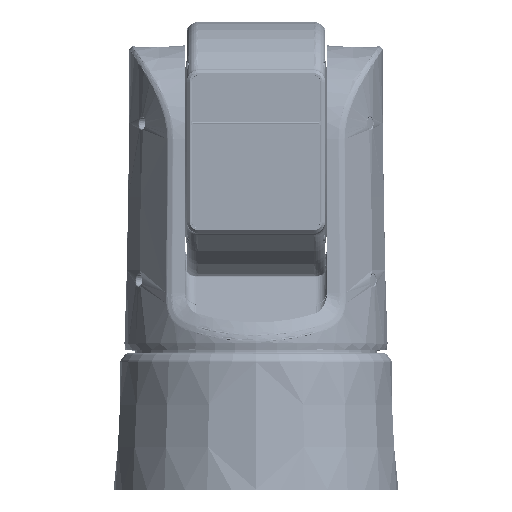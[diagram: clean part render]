
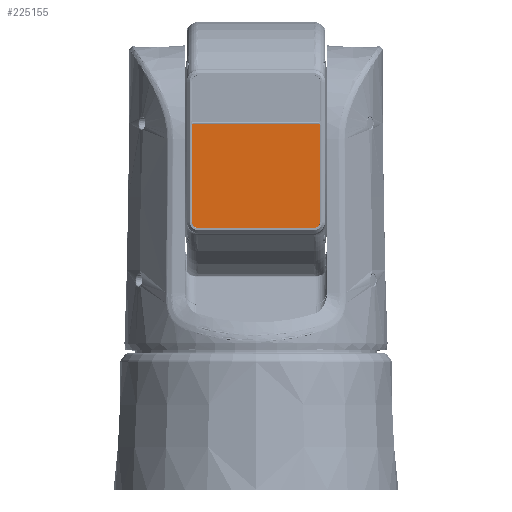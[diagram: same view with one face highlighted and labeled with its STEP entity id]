
A CAD part, top view. The second image highlights one B-rep face of the part: STEP entity #225155.
In plain terms, the highlighted planar face has unit normal (0, 0, 1).
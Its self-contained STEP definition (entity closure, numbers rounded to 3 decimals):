
#225128 = EDGE_CURVE('',#225129,#225131,#225133,.T.);
#225129 = VERTEX_POINT('',#225130);
#225130 = CARTESIAN_POINT('',(40.448,133.053,82.85));
#225131 = VERTEX_POINT('',#225132);
#225132 = CARTESIAN_POINT('',(-40.448,133.053,82.85));
#225133 = LINE('',#225134,#225135);
#225134 = CARTESIAN_POINT('',(40.448,133.053,82.85));
#225135 = VECTOR('',#225136,1.);
#225136 = DIRECTION('',(-1.,0.,0.));
#225155 = ADVANCED_FACE('',(#225156),#225217,.T.);
#225156 = FACE_BOUND('',#225157,.F.);
#225157 = EDGE_LOOP('',(#225158,#225168,#225177,#225185,#225194,#225202,
    #225209,#225210));
#225158 = ORIENTED_EDGE('',*,*,#225159,.T.);
#225159 = EDGE_CURVE('',#225160,#225162,#225164,.T.);
#225160 = VERTEX_POINT('',#225161);
#225161 = CARTESIAN_POINT('',(-44.948,137.553,82.85));
#225162 = VERTEX_POINT('',#225163);
#225163 = CARTESIAN_POINT('',(-44.948,205.003,82.85));
#225164 = LINE('',#225165,#225166);
#225165 = CARTESIAN_POINT('',(-44.948,137.553,82.85));
#225166 = VECTOR('',#225167,1.);
#225167 = DIRECTION('',(0.,1.,0.));
#225168 = ORIENTED_EDGE('',*,*,#225169,.F.);
#225169 = EDGE_CURVE('',#225170,#225162,#225172,.T.);
#225170 = VERTEX_POINT('',#225171);
#225171 = CARTESIAN_POINT('',(-43.998,205.953,82.85));
#225172 = CIRCLE('',#225173,0.95);
#225173 = AXIS2_PLACEMENT_3D('',#225174,#225175,#225176);
#225174 = CARTESIAN_POINT('',(-43.998,205.003,82.85));
#225175 = DIRECTION('',(0.,-0.,1.));
#225176 = DIRECTION('',(0.,1.,0.));
#225177 = ORIENTED_EDGE('',*,*,#225178,.T.);
#225178 = EDGE_CURVE('',#225170,#225179,#225181,.T.);
#225179 = VERTEX_POINT('',#225180);
#225180 = CARTESIAN_POINT('',(43.998,205.953,82.85));
#225181 = LINE('',#225182,#225183);
#225182 = CARTESIAN_POINT('',(-43.998,205.953,82.85));
#225183 = VECTOR('',#225184,1.);
#225184 = DIRECTION('',(1.,0.,0.));
#225185 = ORIENTED_EDGE('',*,*,#225186,.F.);
#225186 = EDGE_CURVE('',#225187,#225179,#225189,.T.);
#225187 = VERTEX_POINT('',#225188);
#225188 = CARTESIAN_POINT('',(44.948,205.003,82.85));
#225189 = CIRCLE('',#225190,0.95);
#225190 = AXIS2_PLACEMENT_3D('',#225191,#225192,#225193);
#225191 = CARTESIAN_POINT('',(43.998,205.003,82.85));
#225192 = DIRECTION('',(0.,0.,1.));
#225193 = DIRECTION('',(1.,0.,0.));
#225194 = ORIENTED_EDGE('',*,*,#225195,.T.);
#225195 = EDGE_CURVE('',#225187,#225196,#225198,.T.);
#225196 = VERTEX_POINT('',#225197);
#225197 = CARTESIAN_POINT('',(44.948,137.553,82.85));
#225198 = LINE('',#225199,#225200);
#225199 = CARTESIAN_POINT('',(44.948,205.003,82.85));
#225200 = VECTOR('',#225201,1.);
#225201 = DIRECTION('',(0.,-1.,0.));
#225202 = ORIENTED_EDGE('',*,*,#225203,.F.);
#225203 = EDGE_CURVE('',#225129,#225196,#225204,.T.);
#225204 = CIRCLE('',#225205,4.5);
#225205 = AXIS2_PLACEMENT_3D('',#225206,#225207,#225208);
#225206 = CARTESIAN_POINT('',(40.448,137.553,82.85));
#225207 = DIRECTION('',(0.,0.,1.));
#225208 = DIRECTION('',(0.,-1.,0.));
#225209 = ORIENTED_EDGE('',*,*,#225128,.T.);
#225210 = ORIENTED_EDGE('',*,*,#225211,.F.);
#225211 = EDGE_CURVE('',#225160,#225131,#225212,.T.);
#225212 = CIRCLE('',#225213,4.5);
#225213 = AXIS2_PLACEMENT_3D('',#225214,#225215,#225216);
#225214 = CARTESIAN_POINT('',(-40.448,137.553,82.85));
#225215 = DIRECTION('',(0.,0.,1.));
#225216 = DIRECTION('',(-1.,0.,0.));
#225217 = PLANE('',#225218);
#225218 = AXIS2_PLACEMENT_3D('',#225219,#225220,#225221);
#225219 = CARTESIAN_POINT('',(-40.498,137.503,82.85));
#225220 = DIRECTION('',(0.,0.,1.));
#225221 = DIRECTION('',(1.,0.,-0.));
